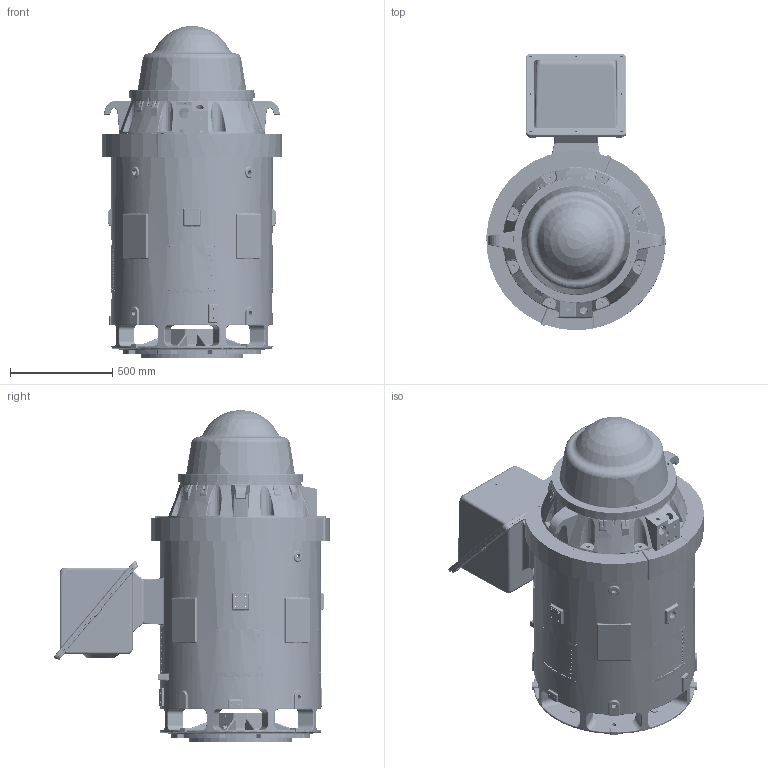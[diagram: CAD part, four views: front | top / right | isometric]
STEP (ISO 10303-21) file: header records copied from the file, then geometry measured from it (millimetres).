
FILE_DESCRIPTION((''),'2;1');
FILE_NAME('5008_VERT_OPEN_20_3_BOX_ASM','2019-12-18T11:14:14',('NMC2304'),('Nidec Motor Corporation'),'CREO PARAMETRIC BY PTC INC, 2019080','CREO PARAMETRIC BY PTC INC, 2019080','');
FILE_SCHEMA(('CONFIG_CONTROL_DESIGN'));
Products named in the file (16): 2071829; 0478402-000; 0478404; 0617283; 2071879; 2071878; 2072152_GRILL; 2072150_ASY; 0476016-000; 0617274; 0842897; 0411031; 0452521; 0475638; 0475629; 5008_VERT_OPEN_20_3_BOX_ASM
Assembly tree (19 placements, depth 2):
  5008_VERT_OPEN_20_3_BOX_ASM
    2071829
    0478402-000
    0478404
    0617283
    2071879
    2071878
    2072152_GRILL
    2072150_ASY  x4
    0476016-000
    0617274
    0842897  x2
    0411031
    0452521
    0475638
    0475629
Bounding box: 875.83 x 1350.36 x 1621.46 mm (x, y, z)
Volume: 104183626 mm3; surface area: 16851697.2 mm2
Topology: 19 solids, 129 shells, 7228 faces, 19275 edges, 12129 vertices
Faces by surface type: bspline 3416, cylinder 1863, plane 1005, torus 485, cone 235, sphere 224
Entity records: 222763 total; most frequent: CARTESIAN_POINT 104966, ORIENTED_EDGE 26224, DIRECTION 21639, EDGE_CURVE 13331, AXIS2_PLACEMENT_3D 8572, VERTEX_POINT 8209, EDGE_LOOP 5919, FACE_OUTER_BOUND 5260
